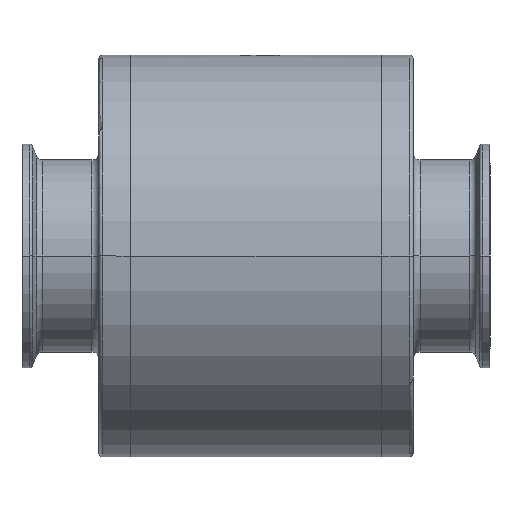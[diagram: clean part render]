
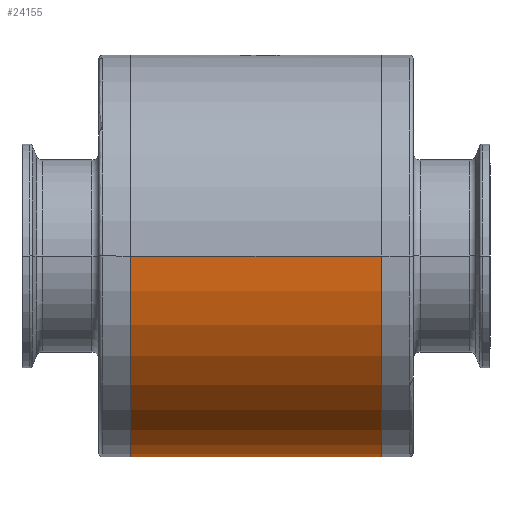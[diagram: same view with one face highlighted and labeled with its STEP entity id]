
A CAD part, front view. The second image highlights one B-rep face of the part: STEP entity #24155.
In plain terms, the highlighted cylindrical face has radius 57.5 mm (diameter 115 mm), a partial arc.
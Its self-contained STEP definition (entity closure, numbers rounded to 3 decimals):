
#343=CARTESIAN_POINT('',(20.329,57.5,0.));
#344=CARTESIAN_POINT('',(20.329,57.5,-0.263));
#345=CARTESIAN_POINT('',(20.319,57.496,-0.792));
#346=CARTESIAN_POINT('',(20.272,57.48,-1.595));
#347=CARTESIAN_POINT('',(20.192,57.452,-2.402));
#348=CARTESIAN_POINT('',(20.079,57.412,-3.21));
#349=CARTESIAN_POINT('',(19.935,57.362,-4.013));
#350=CARTESIAN_POINT('',(19.758,57.3,-4.81));
#351=CARTESIAN_POINT('',(19.549,57.229,-5.599));
#352=CARTESIAN_POINT('',(19.308,57.147,-6.38));
#353=CARTESIAN_POINT('',(19.035,57.055,-7.151));
#354=CARTESIAN_POINT('',(18.73,56.955,-7.912));
#355=CARTESIAN_POINT('',(18.394,56.845,-8.663));
#356=CARTESIAN_POINT('',(18.026,56.728,-9.402));
#357=CARTESIAN_POINT('',(17.625,56.603,-10.127));
#358=CARTESIAN_POINT('',(17.195,56.471,-10.837));
#359=CARTESIAN_POINT('',(16.734,56.334,-11.53));
#360=CARTESIAN_POINT('',(16.243,56.191,-12.204));
#361=CARTESIAN_POINT('',(15.724,56.045,-12.857));
#362=CARTESIAN_POINT('',(15.177,55.896,-13.49));
#363=CARTESIAN_POINT('',(14.603,55.746,-14.099));
#364=CARTESIAN_POINT('',(14.004,55.594,-14.685));
#365=CARTESIAN_POINT('',(13.379,55.443,-15.245));
#366=CARTESIAN_POINT('',(12.73,55.293,-15.78));
#367=CARTESIAN_POINT('',(12.06,55.146,-16.286));
#368=CARTESIAN_POINT('',(11.37,55.003,-16.763));
#369=CARTESIAN_POINT('',(10.662,54.865,-17.211));
#370=CARTESIAN_POINT('',(9.937,54.732,-17.628));
#371=CARTESIAN_POINT('',(9.196,54.606,-18.014));
#372=CARTESIAN_POINT('',(8.44,54.487,-18.369));
#373=CARTESIAN_POINT('',(7.672,54.377,-18.693));
#374=CARTESIAN_POINT('',(6.893,54.276,-18.984));
#375=CARTESIAN_POINT('',(6.104,54.185,-19.243));
#376=CARTESIAN_POINT('',(5.307,54.103,-19.47));
#377=CARTESIAN_POINT('',(4.502,54.033,-19.665));
#378=CARTESIAN_POINT('',(3.691,53.974,-19.827));
#379=CARTESIAN_POINT('',(2.875,53.926,-19.956));
#380=CARTESIAN_POINT('',(2.056,53.89,-20.053));
#381=CARTESIAN_POINT('',(1.234,53.866,-20.118));
#382=CARTESIAN_POINT('',(0.411,53.854,-20.15));
#383=CARTESIAN_POINT('',(-0.411,53.854,
-20.15));
#384=CARTESIAN_POINT('',(-1.235,53.866,-20.118));
#385=CARTESIAN_POINT('',(-2.056,53.89,-20.053));
#386=CARTESIAN_POINT('',(-2.875,53.926,-19.956));
#387=CARTESIAN_POINT('',(-3.691,53.974,-19.826));
#388=CARTESIAN_POINT('',(-4.502,54.033,-19.664));
#389=CARTESIAN_POINT('',(-5.307,54.103,-19.47));
#390=CARTESIAN_POINT('',(-6.104,54.185,-19.243));
#391=CARTESIAN_POINT('',(-6.893,54.276,-18.984));
#392=CARTESIAN_POINT('',(-7.672,54.377,-18.693));
#393=CARTESIAN_POINT('',(-8.441,54.487,-18.369));
#394=CARTESIAN_POINT('',(-9.196,54.606,-18.014));
#395=CARTESIAN_POINT('',(-9.937,54.732,-17.628));
#396=CARTESIAN_POINT('',(-10.662,54.865,-17.21));
#397=CARTESIAN_POINT('',(-11.37,55.003,-16.763));
#398=CARTESIAN_POINT('',(-12.06,55.146,-16.286));
#399=CARTESIAN_POINT('',(-12.73,55.293,-15.779));
#400=CARTESIAN_POINT('',(-13.379,55.443,-15.245));
#401=CARTESIAN_POINT('',(-14.004,55.594,-14.684));
#402=CARTESIAN_POINT('',(-14.604,55.746,-14.099));
#403=CARTESIAN_POINT('',(-15.177,55.897,-13.489));
#404=CARTESIAN_POINT('',(-15.724,56.045,-12.857));
#405=CARTESIAN_POINT('',(-16.243,56.191,-12.203));
#406=CARTESIAN_POINT('',(-16.734,56.334,-11.529));
#407=CARTESIAN_POINT('',(-17.195,56.471,-10.836));
#408=CARTESIAN_POINT('',(-17.626,56.603,-10.127));
#409=CARTESIAN_POINT('',(-18.026,56.728,-9.401));
#410=CARTESIAN_POINT('',(-18.394,56.845,-8.662));
#411=CARTESIAN_POINT('',(-18.731,56.955,-7.912));
#412=CARTESIAN_POINT('',(-19.035,57.055,-7.151));
#413=CARTESIAN_POINT('',(-19.308,57.147,-6.379));
#414=CARTESIAN_POINT('',(-19.549,57.229,-5.598));
#415=CARTESIAN_POINT('',(-19.758,57.3,-4.809));
#416=CARTESIAN_POINT('',(-19.935,57.362,-4.012));
#417=CARTESIAN_POINT('',(-20.079,57.412,-3.209));
#418=CARTESIAN_POINT('',(-20.192,57.452,-2.401));
#419=CARTESIAN_POINT('',(-20.272,57.48,-1.595));
#420=CARTESIAN_POINT('',(-20.319,57.496,
-0.792));
#421=CARTESIAN_POINT('',(-20.329,57.5,
-0.263));
#422=CARTESIAN_POINT('',(-20.329,57.5,0.));
#427=DIRECTION('',(-1.,0.,0.));
#428=VECTOR('',#427,15.471);
#429=CARTESIAN_POINT('',(-20.329,57.5,0.));
#430=LINE('',#429,#428);
#434=CARTESIAN_POINT('',(-35.8,0.,0.));
#435=DIRECTION('',(-1.,0.,0.));
#436=DIRECTION('',(0.,1.,0.));
#437=AXIS2_PLACEMENT_3D('',#434,#435,#436);
#442=DIRECTION('',(-1.,0.,0.));
#443=VECTOR('',#442,71.6);
#444=CARTESIAN_POINT('',(35.8,-57.5,0.));
#445=LINE('',#444,#443);
#449=CARTESIAN_POINT('',(35.8,0.,0.));
#450=DIRECTION('',(-1.,0.,0.));
#451=DIRECTION('',(0.,1.,0.));
#452=AXIS2_PLACEMENT_3D('',#449,#450,#451);
#457=DIRECTION('',(-1.,0.,0.));
#458=VECTOR('',#457,15.471);
#459=CARTESIAN_POINT('',(35.8,57.5,0.));
#460=LINE('',#459,#458);
#478=CARTESIAN_POINT('',(-20.329,57.5,0.));
#557=CARTESIAN_POINT('',(20.329,57.5,0.));
#21951=CARTESIAN_POINT('',(35.8,57.5,0.));
#21952=CARTESIAN_POINT('',(35.8,-57.5,0.));
#21953=VERTEX_POINT('',#21951);
#21954=VERTEX_POINT('',#21952);
#22392=CARTESIAN_POINT('',(-35.8,57.5,0.));
#22393=CARTESIAN_POINT('',(-35.8,-57.5,0.));
#22394=VERTEX_POINT('',#22392);
#22395=VERTEX_POINT('',#22393);
#22551=VERTEX_POINT('',#478);
#22552=VERTEX_POINT('',#557);
#24137=CARTESIAN_POINT('',(-39.6,0.,0.));
#24138=DIRECTION('',(1.,0.,0.));
#24139=DIRECTION('',(0.,-1.,0.));
#24140=AXIS2_PLACEMENT_3D('',#24137,#24138,#24139);
#24141=CYLINDRICAL_SURFACE('',#24140,57.5);
#24143=ORIENTED_EDGE('',*,*,#24142,.T.);
#24145=ORIENTED_EDGE('',*,*,#24144,.T.);
#24147=ORIENTED_EDGE('',*,*,#24146,.T.);
#24149=ORIENTED_EDGE('',*,*,#24148,.F.);
#24150=ORIENTED_EDGE('',*,*,#24131,.F.);
#24152=ORIENTED_EDGE('',*,*,#24151,.T.);
#24153=EDGE_LOOP('',(#24143,#24145,#24147,#24149,#24150,#24152));
#24154=FACE_OUTER_BOUND('',#24153,.F.);
#24155=ADVANCED_FACE('',(#24154),#24141,.T.);
#423=B_SPLINE_CURVE_WITH_KNOTS('',3,(#343,#344,#345,#346,#347,#348,#349,#350,
#351,#352,#353,#354,#355,#356,#357,#358,#359,#360,#361,#362,#363,#364,#365,#366,
#367,#368,#369,#370,#371,#372,#373,#374,#375,#376,#377,#378,#379,#380,#381,#382,
#383,#384,#385,#386,#387,#388,#389,#390,#391,#392,#393,#394,#395,#396,#397,#398,
#399,#400,#401,#402,#403,#404,#405,#406,#407,#408,#409,#410,#411,#412,#413,#414,
#415,#416,#417,#418,#419,#420,#421,#422),.UNSPECIFIED.,.F.,.F.,(4,1,1,1,1,1,1,1,
1,1,1,1,1,1,1,1,1,1,1,1,1,1,1,1,1,1,1,1,1,1,1,1,1,1,1,1,1,1,1,1,1,1,1,1,1,1,1,1,
1,1,1,1,1,1,1,1,1,1,1,1,1,1,1,1,1,1,1,1,1,1,1,1,1,1,1,1,1,4),(0.,
0.013,0.026,0.039,0.052,
0.065,0.078,0.091,0.104,
0.117,0.13,0.143,0.156,
0.169,0.182,0.195,0.208,
0.221,0.234,0.247,0.26,
0.273,0.286,0.299,0.312,
0.325,0.338,0.351,0.364,
0.377,0.39,0.403,0.416,
0.429,0.442,0.455,0.468,
0.481,0.494,0.506,0.519,
0.532,0.545,0.558,0.571,
0.584,0.597,0.61,0.623,
0.636,0.649,0.662,0.675,
0.688,0.701,0.714,0.727,
0.74,0.753,0.766,0.779,
0.792,0.805,0.818,0.831,
0.844,0.857,0.87,0.883,
0.896,0.909,0.922,0.935,
0.948,0.961,0.974,0.987,1.),
.UNSPECIFIED.);
#438=CIRCLE('',#437,57.5);
#453=CIRCLE('',#452,57.5);
#24131=EDGE_CURVE('',#21953,#21954,#453,.T.);
#24142=EDGE_CURVE('',#22552,#22551,#423,.T.);
#24144=EDGE_CURVE('',#22551,#22394,#430,.T.);
#24146=EDGE_CURVE('',#22394,#22395,#438,.T.);
#24148=EDGE_CURVE('',#21954,#22395,#445,.T.);
#24151=EDGE_CURVE('',#21953,#22552,#460,.T.);
